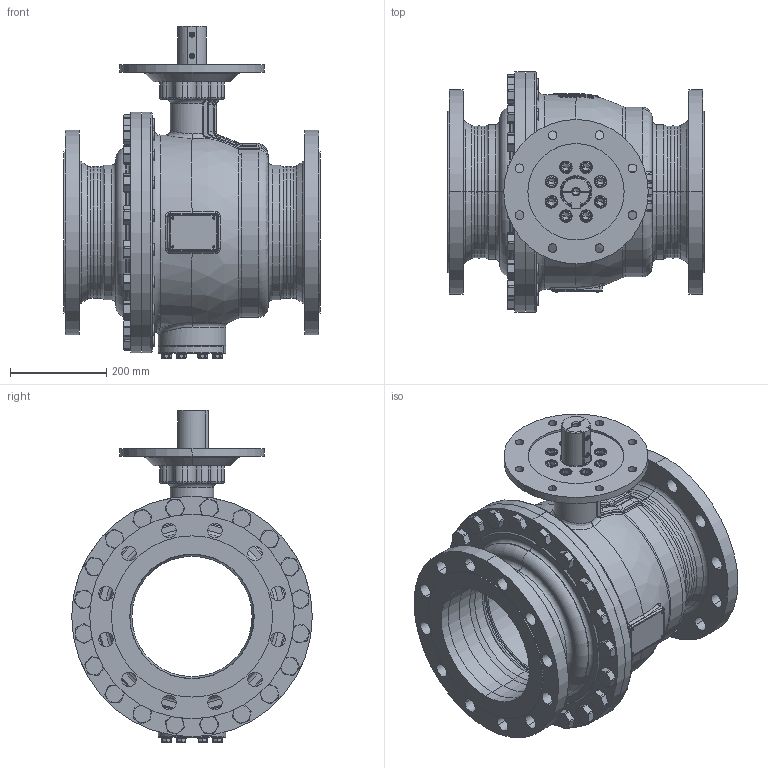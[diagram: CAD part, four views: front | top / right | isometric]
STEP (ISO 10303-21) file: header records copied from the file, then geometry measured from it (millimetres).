
FILE_DESCRIPTION((''),'2;1');
FILE_NAME('KHI-F_250_PN025-F25-P_SW0001','2026-02-05T14:16:48',('fischerkl'),('KLINGER'),'CREO PARAMETRIC BY PTC INC, 2023014','CREO PARAMETRIC BY PTC INC, 2023014','');
FILE_SCHEMA(('CONFIG_CONTROL_DESIGN'));
Products named in the file (1): KHI-F_250_PN025-F25-P_SW0001
Bounding box: 533 x 500 x 689.8 mm (x, y, z)
Volume: 23201299.6 mm3; surface area: 3469349.8 mm2
Topology: 1 solids, 4 shells, 3284 faces, 8297 edges, 5168 vertices
Faces by surface type: plane 1684, cylinder 770, cone 389, torus 314, bspline 97, sphere 30
Entity records: 134236 total; most frequent: CARTESIAN_POINT 56227, ORIENTED_EDGE 16534, DIRECTION 16036, EDGE_CURVE 8267, AXIS2_PLACEMENT_3D 6060, VERTEX_POINT 5168, VECTOR 3916, LINE 3916
